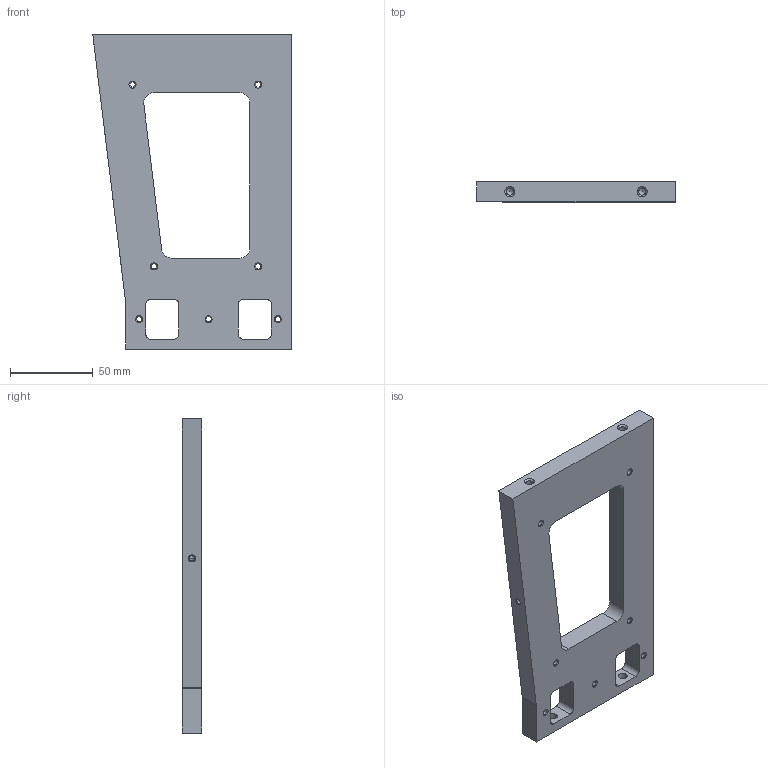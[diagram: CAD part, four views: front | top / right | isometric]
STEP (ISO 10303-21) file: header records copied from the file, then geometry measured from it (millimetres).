
FILE_DESCRIPTION(('STEP AP203'), '1');
FILE_NAME('ﾒﾏﾏﾔ1801.01.07.02.002 - ﾐ裔', '', ('UNSPECIFIED'), ('UNSPECIFIED'), 'C3D Converter', 'C3D Toolkit', '');
FILE_SCHEMA(('CONFIG_CONTROL_DESIGN'));
Length unit declared in the file: millimetre
Products named in the file (1): ТППФ1801.01.07.02.002
Bounding box: 120 x 12 x 190 mm (x, y, z)
Volume: 164317.4 mm3; surface area: 42027.5 mm2
Topology: 1 solids, 1 shells, 73 faces, 187 edges, 116 vertices
Faces by surface type: cylinder 28, cone 26, plane 19
Full cylindrical faces by diameter (mm): 3.242 x11, 4.134 x2, 5.5 x2
Entity records: 2622 total; most frequent: DIRECTION 364, CARTESIAN_POINT 324, ORIENTED_EDGE 280, AXIS2_PLACEMENT_3D 150, EDGE_CURVE 140, EDGE_LOOP 138, VERTEX_POINT 110, FACE_OUTER_BOUND 76
